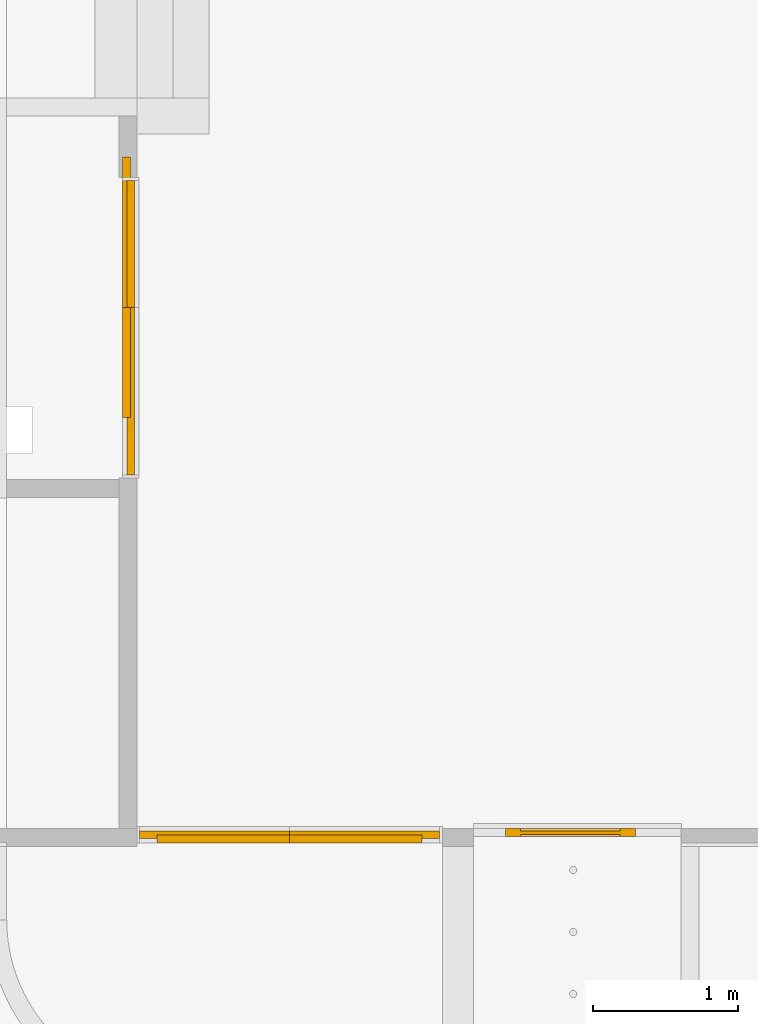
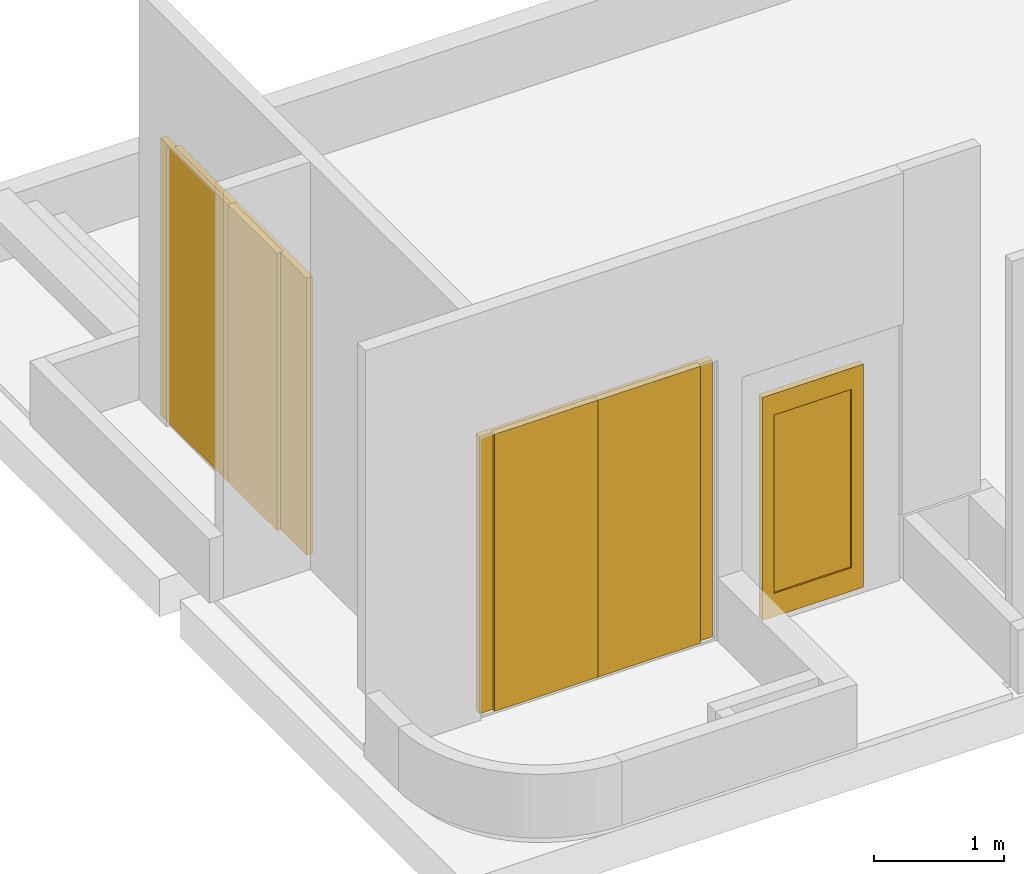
# One storey, part 4 of 6: 5 doors, 4 windows, 2 elements without a shape of their own.
"""IFC2X3 building model written with IfcOpenShell, lengths in millimetres."""

from ifc_helpers import new_model, entity, si_unit, converted_unit, derived_unit, direction, frame, frame_2d, origin, origin_2d_with_axis, place, context, subcontext, project, spatial, polyline, rectangle, outline, extrude, source, transform, mapped, material, material_list, type_object, type_shapes, element, aggregate, save


model = new_model("IFC2X3")

# Units and contexts
model_context = context("Model", 3, precision=0.01, world=origin(), true_north=direction((6.123031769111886e-17, 1.0)))
body_context = subcontext(model_context, "Body", "Model", "MODEL_VIEW")
ifc_project = project(units=[si_unit("LENGTHUNIT", "METRE", prefix="MILLI"), si_unit("AREAUNIT", "SQUARE_METRE"), si_unit("VOLUMEUNIT", "CUBIC_METRE"), converted_unit("PLANEANGLEUNIT", "DEGREE", entity("IfcRatioMeasure", 0.017453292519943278), si_unit("PLANEANGLEUNIT", "RADIAN"), dimensions=[0, 0, 0, 0, 0, 0, 0]), si_unit("MASSUNIT", "GRAM", prefix="KILO"), derived_unit("MASSDENSITYUNIT", [(si_unit("MASSUNIT", "GRAM", prefix="KILO"), 1), (si_unit("LENGTHUNIT", "METRE"), -3)]), derived_unit("IONCONCENTRATIONUNIT", [(si_unit("MASSUNIT", "GRAM", prefix="KILO"), 1), (si_unit("LENGTHUNIT", "METRE"), -3)]), derived_unit("MOMENTOFINERTIAUNIT", [(si_unit("LENGTHUNIT", "METRE"), 4)]), si_unit("TIMEUNIT", "SECOND"), si_unit("FREQUENCYUNIT", "HERTZ"), si_unit("THERMODYNAMICTEMPERATUREUNIT", "DEGREE_CELSIUS"), derived_unit("THERMALTRANSMITTANCEUNIT", [(si_unit("MASSUNIT", "GRAM", prefix="KILO"), 1), (si_unit("THERMODYNAMICTEMPERATUREUNIT", "KELVIN"), -1), (si_unit("TIMEUNIT", "SECOND"), -3)]), derived_unit("THERMALCONDUCTANCEUNIT", [(si_unit("MASSUNIT", "GRAM", prefix="KILO"), 1), (si_unit("THERMODYNAMICTEMPERATUREUNIT", "KELVIN"), -1), (si_unit("TIMEUNIT", "SECOND"), -3), (si_unit("LENGTHUNIT", "METRE"), 1)]), derived_unit("VOLUMETRICFLOWRATEUNIT", [(si_unit("LENGTHUNIT", "METRE"), 3), (si_unit("TIMEUNIT", "SECOND"), -1)]), derived_unit("MASSFLOWRATEUNIT", [(si_unit("MASSUNIT", "GRAM", prefix="KILO"), 1), (si_unit("TIMEUNIT", "SECOND"), -1)]), derived_unit("ROTATIONALFREQUENCYUNIT", [(si_unit("TIMEUNIT", "SECOND"), -1)]), si_unit("ELECTRICCURRENTUNIT", "AMPERE"), si_unit("ELECTRICVOLTAGEUNIT", "VOLT"), si_unit("POWERUNIT", "WATT"), si_unit("FORCEUNIT", "NEWTON", prefix="KILO"), si_unit("ILLUMINANCEUNIT", "LUX"), si_unit("LUMINOUSFLUXUNIT", "LUMEN"), si_unit("LUMINOUSINTENSITYUNIT", "CANDELA"), derived_unit("USERDEFINED", [(si_unit("MASSUNIT", "GRAM", prefix="KILO"), -1), (si_unit("LENGTHUNIT", "METRE"), -2), (si_unit("TIMEUNIT", "SECOND"), 3), (si_unit("LUMINOUSFLUXUNIT", "LUMEN"), 1)]), derived_unit("USERDEFINED", [(si_unit("MASSUNIT", "GRAM", prefix="KILO"), 1), (si_unit("TIMEUNIT", "SECOND"), -3), (si_unit("LENGTHUNIT", "METRE"), 3), (si_unit("ELECTRICCURRENTUNIT", "AMPERE"), -2)]), derived_unit("SOUNDPOWERUNIT", [(si_unit("MASSUNIT", "GRAM", prefix="KILO"), 1), (si_unit("TIMEUNIT", "SECOND"), -3), (si_unit("LENGTHUNIT", "METRE"), 2)]), derived_unit("SOUNDPRESSUREUNIT", [(si_unit("MASSUNIT", "GRAM", prefix="KILO"), 1), (si_unit("LENGTHUNIT", "METRE"), -1), (si_unit("TIMEUNIT", "SECOND"), -2)]), derived_unit("LINEARVELOCITYUNIT", [(si_unit("LENGTHUNIT", "METRE"), 1), (si_unit("TIMEUNIT", "SECOND"), -1)]), si_unit("PRESSUREUNIT", "PASCAL"), derived_unit("USERDEFINED", [(si_unit("MASSUNIT", "GRAM", prefix="KILO"), 1), (si_unit("LENGTHUNIT", "METRE"), -2), (si_unit("TIMEUNIT", "SECOND"), -2)]), derived_unit("LINEARFORCEUNIT", [(si_unit("MASSUNIT", "GRAM", prefix="KILO"), 1), (si_unit("TIMEUNIT", "SECOND"), -2)]), derived_unit("PLANARFORCEUNIT", [(si_unit("MASSUNIT", "GRAM", prefix="KILO"), 1), (si_unit("LENGTHUNIT", "METRE"), -1), (si_unit("TIMEUNIT", "SECOND"), -2)]), derived_unit("SPECIFICHEATCAPACITYUNIT", [(si_unit("THERMODYNAMICTEMPERATUREUNIT", "KELVIN"), -1), (si_unit("LENGTHUNIT", "METRE"), 2), (si_unit("TIMEUNIT", "SECOND"), -2)]), derived_unit("HEATINGVALUEUNIT", [(si_unit("LENGTHUNIT", "METRE"), 2), (si_unit("TIMEUNIT", "SECOND"), -2)]), derived_unit("VAPORPERMEABILITYUNIT", [(si_unit("LENGTHUNIT", "METRE"), -1), (si_unit("TIMEUNIT", "SECOND"), 1)]), derived_unit("DYNAMICVISCOSITYUNIT", [(si_unit("MASSUNIT", "GRAM", prefix="KILO"), 1), (si_unit("TIMEUNIT", "SECOND"), -1), (si_unit("LENGTHUNIT", "METRE"), -1)]), derived_unit("THERMALEXPANSIONCOEFFICIENTUNIT", [(si_unit("THERMODYNAMICTEMPERATUREUNIT", "KELVIN"), -1)]), derived_unit("MODULUSOFELASTICITYUNIT", [(si_unit("MASSUNIT", "GRAM", prefix="KILO"), 1), (si_unit("LENGTHUNIT", "METRE"), -1), (si_unit("TIMEUNIT", "SECOND"), -2)]), derived_unit("ISOTHERMALMOISTURECAPACITYUNIT", [(si_unit("LENGTHUNIT", "METRE"), 3), (si_unit("MASSUNIT", "GRAM", prefix="KILO"), -1)]), derived_unit("MOISTUREDIFFUSIVITYUNIT", [(si_unit("TIMEUNIT", "SECOND"), -1), (si_unit("LENGTHUNIT", "METRE"), 2)])], contexts=[model_context])

# Site, building, storey
site_placement = place(None, frame((0.0, 300.0, 0.0)))
site = spatial("IfcSite", under=ifc_project, at=site_placement, Name="<Kadastrale nummers>", CompositionType="ELEMENT")
building_placement = place(site_placement, origin())
building = spatial("IfcBuilding", under=site, at=building_placement, CompositionType="ELEMENT")
storey_placement = place(building_placement, frame((0.0, 0.0, -600.0)))
storey = spatial("IfcBuildingStorey", under=building, at=storey_placement, Name="-1 Speelvloer", CompositionType="ELEMENT", Elevation=-599.9999999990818)

# Curtain wall, doors
curtain_wall_type_1 = type_object("IfcCurtainWallType", Name="Curtain Wall:Merk H22", PredefinedType="NOTDEFINED")
curtain_wall_1_placement = place(storey_placement, frame((0.0, 0.0, 600.0)))
curtain_wall_1 = element("IfcCurtainWall", 1, at=curtain_wall_1_placement, inside=storey, type_object=curtain_wall_type_1, Name="Curtain Wall:Merk H22", ObjectType="Curtain Wall:Merk H22")
ifc_material_1 = material(Name="HPL F7853 ocean gray")
door_style_1 = type_object("IfcDoorStyle", Name="31_DO_dichte_deur:dichte_deur", ConstructionType="NOTDEFINED", OperationType="NOTDEFINED", ParameterTakesPrecedence=False, Sizeable=False, material=ifc_material_1)
shared_shape_1 = source(origin(), body_context, "Body", "SweptSolid", [
    extrude(rectangle(XDim=1160.00000000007, YDim=26.999999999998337, at=frame_2d((0.0, 3.552713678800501e-15), x_axis=(1.0, 0.0))), frame((0.0, 43.49999999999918, 0.0)), (0.0, 0.0, 1.0), 2610.0000000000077),
    extrude(rectangle(XDim=1160.00000000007, YDim=26.999999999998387, at=frame_2d((0.0, 4.440892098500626e-15), x_axis=(1.0, 0.0))), frame((0.0, 70.49999999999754, 0.0)), (0.0, 0.0, 1.0), 2610.000000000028),
])
type_shapes(door_style_1, [shared_shape_1])
door_1_placement = place(curtain_wall_1_placement, frame((37386.03993788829, 45570.0, -580.0), z_axis=(0.0, 0.0, 1.0), x_axis=(0.0, -1.0, 0.0)))
door_1 = element("IfcDoor", 2, at=door_1_placement, type_object=door_style_1, material=ifc_material_1, Name="31_DO_dichte_deur:dichte_deur", ObjectType="31_DO_dichte_deur:dichte_deur", OverallHeight=2610.000000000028, OverallWidth=2200.0000000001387, context=body_context, shape_type="MappedRepresentation", body=[
    mapped(shared_shape_1, transform((0.0, 0.0, 0.0), scale=1.0)),
])
door_style_2 = type_object("IfcDoorStyle", Name="31_DO_dichte_deur:dichte_deur", ConstructionType="NOTDEFINED", OperationType="NOTDEFINED", ParameterTakesPrecedence=False, Sizeable=False, material=ifc_material_1)
shared_shape_2 = source(origin(), body_context, "Body", "SweptSolid", [
    extrude(rectangle(XDim=880.0000000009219, YDim=26.999999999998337, at=frame_2d((0.0, 3.552713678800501e-15), x_axis=(1.0, 0.0))), frame((0.0, 43.49999999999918, 0.0)), (0.0, 0.0, 1.0), 2610.0000000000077),
    extrude(rectangle(XDim=880.0000000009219, YDim=26.999999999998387, at=frame_2d((0.0, 4.440892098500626e-15), x_axis=(1.0, 0.0))), frame((0.0, 70.49999999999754, 0.0)), (0.0, 0.0, 1.0), 2610.000000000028),
])
type_shapes(door_style_2, [shared_shape_2])
door_2_placement = place(curtain_wall_1_placement, frame((37386.03993788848, 46590.0, -580.0), z_axis=(0.0, 0.0, 1.0), x_axis=(0.0, -1.0, 0.0)))
door_2 = element("IfcDoor", 3, at=door_2_placement, type_object=door_style_2, material=ifc_material_1, Name="31_DO_dichte_deur:dichte_deur", ObjectType="31_DO_dichte_deur:dichte_deur", OverallHeight=2610.000000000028, OverallWidth=1640.0000000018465, context=body_context, shape_type="MappedRepresentation", body=[
    mapped(shared_shape_2, transform((0.0, 0.0, 0.0), scale=1.0)),
])
aggregate(curtain_wall_1, [door_1, door_2])

# Windows
ifc_material_2 = material(Name="Clearance Zones")
window_style_1 = type_object("IfcWindowStyle", Name="BU schuif links:BU schuif links", ConstructionType="NOTDEFINED", OperationType="NOTDEFINED", ParameterTakesPrecedence=False, Sizeable=False, material=ifc_material_2)
shared_shape_3 = source(origin(), body_context, "Body", "SweptSolid", [
    extrude(rectangle(XDim=1040.000000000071, YDim=53.999999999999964, at=frame_2d((5.684341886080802e-14, 0.0), x_axis=(1.0, 0.0))), frame((-1100.0, 0.0, 0.0), z_axis=(0.0, 0.0, 1.0), x_axis=(-1.0, 0.0, 0.0)), (0.0, 0.0, 1.0), 2609.999999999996),
])
type_shapes(window_style_1, [shared_shape_3])
window_1_placement = place(storey_placement, frame((37413.28993788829, 45570.0, 20.0), z_axis=(0.0, 0.0, 1.0), x_axis=(0.0, -1.0, 0.0)))
element("IfcWindow", 4, at=window_1_placement, inside=storey, type_object=window_style_1, material=ifc_material_2, Name="BU schuif links:BU schuif links", ObjectType="BU schuif links:BU schuif links", OverallHeight=193.99999999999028, OverallWidth=2200.0000000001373, context=body_context, shape_type="MappedRepresentation", body=[
    mapped(shared_shape_3, transform((0.0, 0.0, 0.0), scale=1.0)),
])
window_style_2 = type_object("IfcWindowStyle", Name="BI schuif rechts:BI schuif rechts", ConstructionType="NOTDEFINED", OperationType="NOTDEFINED", ParameterTakesPrecedence=False, Sizeable=False, material=ifc_material_2)
shared_shape_4 = source(origin(), body_context, "Body", "SweptSolid", [
    extrude(rectangle(XDim=760.0000000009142, YDim=53.99999999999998, at=origin_2d_with_axis()), frame((820.0, 0.0, 0.0), z_axis=(0.0, 0.0, 1.0), x_axis=(-1.0, 0.0, 0.0)), (0.0, 0.0, 1.0), 2609.999999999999),
])
type_shapes(window_style_2, [shared_shape_4])
window_2_placement = place(storey_placement, frame((37413.289937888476, 46590.0, 20.0), z_axis=(0.0, 0.0, 1.0), x_axis=(0.0, -1.0, 0.0)))
element("IfcWindow", 5, at=window_2_placement, inside=storey, type_object=window_style_2, material=ifc_material_2, Name="BI schuif rechts:BI schuif rechts", ObjectType="BI schuif rechts:BI schuif rechts", OverallHeight=194.00000000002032, OverallWidth=1640.0000000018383, context=body_context, shape_type="MappedRepresentation", body=[
    mapped(shared_shape_4, transform((0.0, 0.0, 0.0), scale=1.0)),
])

# Door
ifc_material_3 = material(Name="cibes_RAL_9016")
ifc_material_4 = material(Name="cibes_glass")
ifc_material_list = material_list([ifc_material_3, ifc_material_4])
door_style_3 = type_object("IfcDoorStyle", Name="Aluminium Door_single_glass:Left hinged", ConstructionType="NOTDEFINED", OperationType="NOTDEFINED", ParameterTakesPrecedence=False, Sizeable=False, material=ifc_material_list)
shared_shape_5 = source(origin(), body_context, "Body", "SweptSolid", [
    extrude(outline(polyline([(-1050.0, -450.0), (1050.0, -450.0), (1050.0, 450.0), (-1050.0, 450.0), (-1050.0, -450.0)]), holes=[polyline([(-850.0, -345.0), (-850.0, 345.0), (831.0, 345.0), (831.0, -345.0), (-850.0, -345.0)])]), frame((563.0, 0.0, 1100.0), z_axis=(0.0, 1.0, 0.0), x_axis=(0.0, 0.0, -1.0)), (0.0, 0.0, 1.0), 54.999999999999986),
    extrude(rectangle(XDim=689.9999999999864, YDim=25.0, at=frame_2d((5.684341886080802e-14, 0.0), x_axis=(1.0, 0.0))), frame((563.0, 27.499999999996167, 269.0)), (0.0, 0.0, 1.0), 1681.0000000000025),
])
type_shapes(door_style_3, [shared_shape_5])
door_3_placement = place(storey_placement, frame((39920.99978599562, 42490.0, -45.0)))
element("IfcDoor", 6, at=door_3_placement, inside=storey, type_object=door_style_3, material=ifc_material_list, Name="Aluminium Door_single_glass:Left hinged", ObjectType="Aluminium Door_single_glass:Left hinged", OverallHeight=900.0000000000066, OverallWidth=900.000000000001, context=body_context, shape_type="MappedRepresentation", body=[
    mapped(shared_shape_5, transform((0.0, 0.0, 0.0), scale=1.0)),
])

# Curtain wall, doors
curtain_wall_type_2 = type_object("IfcCurtainWallType", Name="Curtain Wall:Merk H23", PredefinedType="NOTDEFINED")
curtain_wall_2_placement = place(storey_placement, frame((0.0, 0.0, 600.0)))
curtain_wall_2 = element("IfcCurtainWall", 7, at=curtain_wall_2_placement, inside=storey, type_object=curtain_wall_type_2, Name="Curtain Wall:Merk H23", ObjectType="Curtain Wall:Merk H23")
door_style_4 = type_object("IfcDoorStyle", Name="31_DO_dichte_deur:dichte_deur", ConstructionType="NOTDEFINED", OperationType="NOTDEFINED", ParameterTakesPrecedence=False, Sizeable=False, material=ifc_material_1)
shared_shape_6 = source(origin(), body_context, "Body", "SweptSolid", [
    extrude(rectangle(XDim=26.999999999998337, YDim=1037.0000000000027, at=frame_2d((3.552713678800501e-15, 0.0), x_axis=(1.0, 0.0))), frame((0.0, 43.49999999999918, 0.0), z_axis=(0.0, 0.0, 1.0), x_axis=(0.0, 1.0, 0.0)), (0.0, 0.0, 1.0), 2610.0000000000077),
    extrude(rectangle(XDim=26.999999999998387, YDim=1037.0000000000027, at=frame_2d((4.440892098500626e-15, 0.0), x_axis=(1.0, 0.0))), frame((0.0, 70.49999999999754, 0.0), z_axis=(0.0, 0.0, 1.0), x_axis=(0.0, 1.0, 0.0)), (0.0, 0.0, 1.0), 2610.000000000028),
])
type_shapes(door_style_4, [shared_shape_6])
door_4_placement = place(curtain_wall_2_placement, frame((38023.53993788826, 42446.0, -580.0)))
door_4 = element("IfcDoor", 8, at=door_4_placement, type_object=door_style_4, material=ifc_material_1, Name="31_DO_dichte_deur:dichte_deur", ObjectType="31_DO_dichte_deur:dichte_deur", OverallHeight=2610.000000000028, OverallWidth=1954.000000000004, context=body_context, shape_type="MappedRepresentation", body=[
    mapped(shared_shape_6, transform((0.0, 0.0, 0.0), scale=1.0)),
])
door_style_5 = type_object("IfcDoorStyle", Name="31_DO_dichte_deur:dichte_deur", ConstructionType="NOTDEFINED", OperationType="NOTDEFINED", ParameterTakesPrecedence=False, Sizeable=False, material=ifc_material_1)
shared_shape_7 = source(origin(), body_context, "Body", "SweptSolid", [
    extrude(rectangle(XDim=26.999999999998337, YDim=1037.9598481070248, at=frame_2d((3.552713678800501e-15, 0.0), x_axis=(1.0, 0.0))), frame((0.0, 43.49999999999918, 0.0), z_axis=(0.0, 0.0, 1.0), x_axis=(0.0, 1.0, 0.0)), (0.0, 0.0, 1.0), 2610.0000000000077),
    extrude(rectangle(XDim=26.999999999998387, YDim=1037.9598481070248, at=frame_2d((4.440892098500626e-15, 0.0), x_axis=(1.0, 0.0))), frame((0.0, 70.49999999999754, 0.0), z_axis=(0.0, 0.0, 1.0), x_axis=(0.0, 1.0, 0.0)), (0.0, 0.0, 1.0), 2610.000000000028),
])
type_shapes(door_style_5, [shared_shape_7])
door_5_placement = place(curtain_wall_2_placement, frame((39061.019861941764, 42446.0, -580.0)))
door_5 = element("IfcDoor", 9, at=door_5_placement, type_object=door_style_5, material=ifc_material_1, Name="31_DO_dichte_deur:dichte_deur", ObjectType="31_DO_dichte_deur:dichte_deur", OverallHeight=2610.000000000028, OverallWidth=1955.919696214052, context=body_context, shape_type="MappedRepresentation", body=[
    mapped(shared_shape_7, transform((0.0, 0.0, 0.0), scale=1.0)),
])
aggregate(curtain_wall_2, [door_4, door_5])

# Windows
window_style_3 = type_object("IfcWindowStyle", Name="BU schuif links:BU schuif links", ConstructionType="NOTDEFINED", OperationType="NOTDEFINED", ParameterTakesPrecedence=False, Sizeable=False, material=ifc_material_2)
shared_shape_8 = source(origin(), body_context, "Body", "SweptSolid", [
    extrude(rectangle(XDim=53.999999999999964, YDim=917.0000000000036, at=frame_2d((0.0, -5.684341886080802e-14), x_axis=(1.0, 0.0))), frame((-977.0, 0.0, 0.0), z_axis=(0.0, 0.0, 1.0), x_axis=(0.0, 1.0, 0.0)), (0.0, 0.0, 1.0), 2609.999999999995),
])
type_shapes(window_style_3, [shared_shape_8])
window_3_placement = place(storey_placement, frame((38023.53993788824, 42473.25000000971, 20.0), z_axis=(0.0, 0.0, 1.0), x_axis=(-1.0, 0.0, 0.0)))
element("IfcWindow", 10, at=window_3_placement, inside=storey, type_object=window_style_3, material=ifc_material_2, Name="BU schuif links:BU schuif links", ObjectType="BU schuif links:BU schuif links", OverallHeight=193.99999999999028, OverallWidth=1954.0000000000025, context=body_context, shape_type="MappedRepresentation", body=[
    mapped(shared_shape_8, transform((0.0, 0.0, 0.0), scale=1.0)),
])
window_style_4 = type_object("IfcWindowStyle", Name="BI schuif rechts:BI schuif rechts", ConstructionType="NOTDEFINED", OperationType="NOTDEFINED", ParameterTakesPrecedence=False, Sizeable=False, material=ifc_material_2)
shared_shape_9 = source(origin(), body_context, "Body", "SweptSolid", [
    extrude(rectangle(XDim=53.99999999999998, YDim=917.9598481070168, at=origin_2d_with_axis()), frame((977.9598481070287, 0.0, 0.0), z_axis=(0.0, 0.0, 1.0), x_axis=(0.0, 1.0, 0.0)), (0.0, 0.0, 1.0), 2609.999999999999),
])
type_shapes(window_style_4, [shared_shape_9])
window_4_placement = place(storey_placement, frame((39061.01986194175, 42473.250000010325, 20.0), z_axis=(0.0, 0.0, 1.0), x_axis=(-1.0, 0.0, 0.0)))
element("IfcWindow", 11, at=window_4_placement, inside=storey, type_object=window_style_4, material=ifc_material_2, Name="BI schuif rechts:BI schuif rechts", ObjectType="BI schuif rechts:BI schuif rechts", OverallHeight=194.00000000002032, OverallWidth=1955.9196962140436, context=body_context, shape_type="MappedRepresentation", body=[
    mapped(shared_shape_9, transform((0.0, 0.0, 0.0), scale=1.0)),
])

save(model, "model.ifc")
